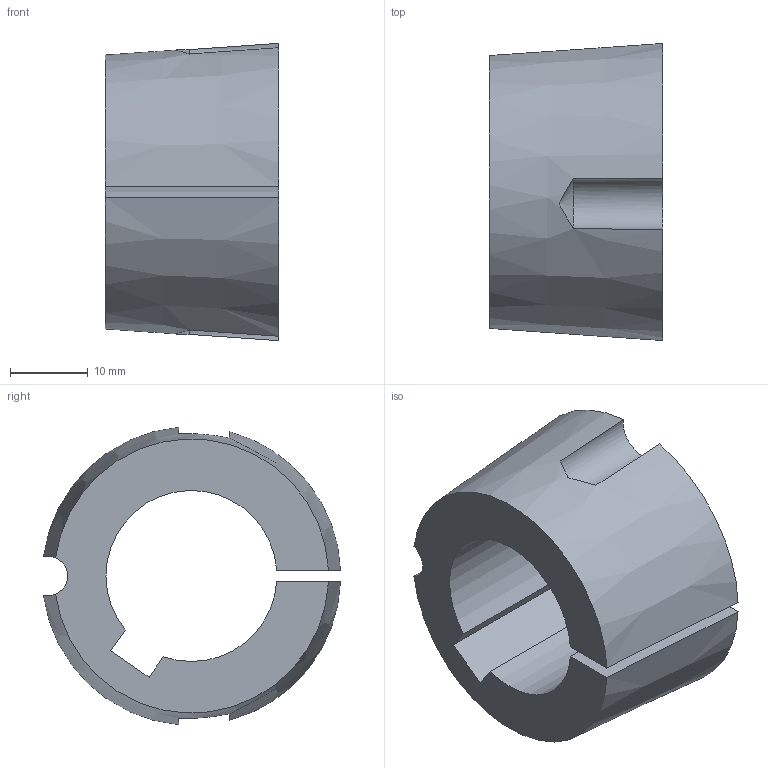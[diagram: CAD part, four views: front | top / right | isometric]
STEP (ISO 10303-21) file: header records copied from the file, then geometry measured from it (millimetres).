
FILE_DESCRIPTION( ( 'STEP AP203' ), '1' );
FILE_NAME( 'D:/export/antriebselemente/spannbuchsen_und_spannsaetze/taper-spannbuchsen_1008_bis_5050/taper-spannbuchsen_62250222Isometric_29.stp', '2018-12-11T11:10:59', ( '' ), ( '' ), ' ', 'PARTsolutions', ' ' );
FILE_SCHEMA( ( 'CONFIG_CONTROL_DESIGN' ) );
Length unit declared in the file: millimetre
Products named in the file (1): _taper-spannbuchsen_62250222
Bounding box: 22.3 x 38.22 x 38.26 mm (x, y, z)
Volume: 14011.6 mm3; surface area: 5955.8 mm2
Topology: 1 solids, 1 shells, 16 faces, 42 edges, 28 vertices
Faces by surface type: plane 7, cylinder 5, cone 4
Entity records: 602 total; most frequent: CARTESIAN_POINT 163, ORIENTED_EDGE 84, DIRECTION 82, EDGE_CURVE 42, AXIS2_PLACEMENT_3D 33, VERTEX_POINT 28, ADVANCED_FACE 16, FACE_OUTER_BOUND 16
